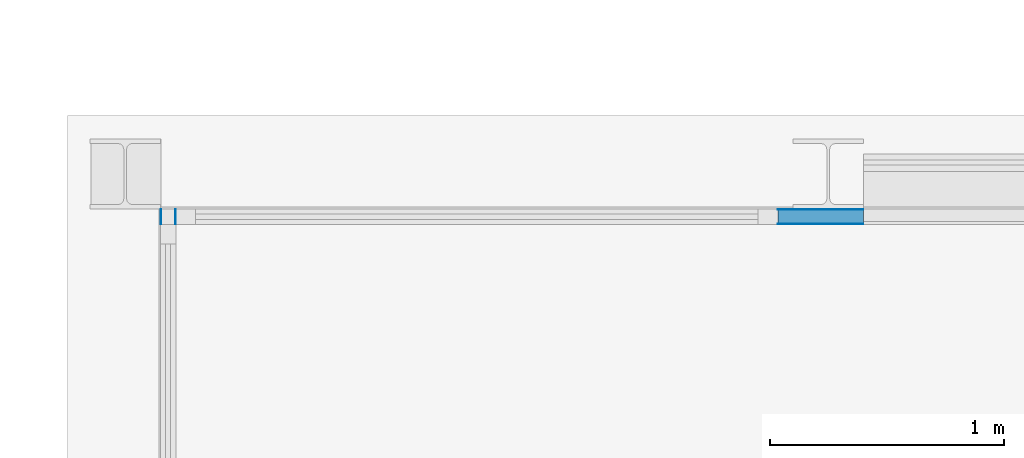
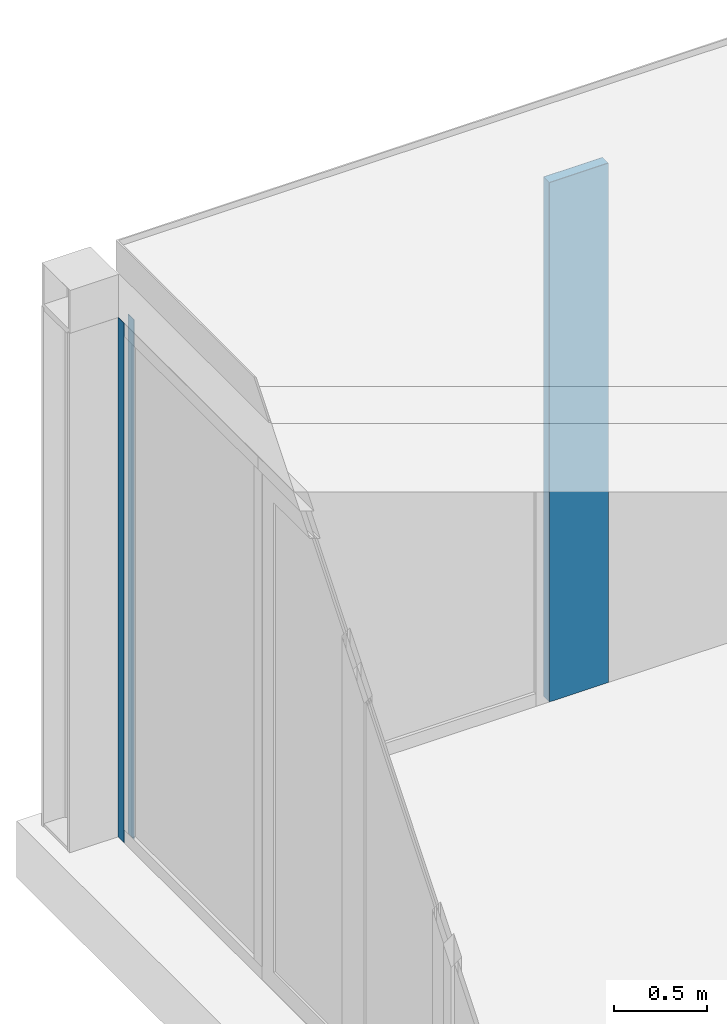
# One storey, part 73 of 99: 5 building element parts, 2 elements without a shape of their own.
"""IFC2X3 building model written with IfcOpenShell, lengths in millimetres."""

import ifcopenshell
import ifcopenshell.guid

model = None  # the IFC model being written
_history = None  # IfcOwnerHistory: only IFC2X3 demands one
_inside = {}  # id of a spatial element -> (the spatial element, [elements in it])
_under = {}  # id of a project, library or spatial element -> (it, [spatial elements below it])
_declared = {}  # id of a project -> (the project, [libraries it declares])
_typed = {}  # id of a type object -> (the type object, [elements of that type])
_made_of = {}  # id of a material, layer set ... -> (it, [elements and type objects made of it])


def new_model(schema):
    """Start an empty IFC model of exactly this schema.

    Asked for "IFC4X3", IfcOpenShell would pick the latest addendum, in which some entities
    have other attributes; the version numbers below select the first issue.
    IFC2X3 requires an IfcOwnerHistory on every rooted entity: one is made here for all.
    """
    global model, _history
    if schema == "IFC4X3":
        model = ifcopenshell.file(schema_version=(4, 3, 0, 0))
    else:
        model = ifcopenshell.file(schema=schema)
    _inside.clear()
    _under.clear()
    _declared.clear()
    _typed.clear()
    _made_of.clear()
    _history = None
    if model.schema == "IFC2X3":
        org = make("IfcOrganization", Name="unknown")
        user = make(
            "IfcPersonAndOrganization",
            ThePerson=make("IfcPerson", FamilyName="unknown"),
            TheOrganization=org,
        )
        app = make(
            "IfcApplication",
            ApplicationDeveloper=org,
            Version="unknown",
            ApplicationFullName="unknown",
            ApplicationIdentifier="unknown",
        )
        _history = make(
            "IfcOwnerHistory",
            OwningUser=user,
            OwningApplication=app,
            ChangeAction="ADDED",
            CreationDate=0,
        )
    return model


def make(cls, **values):
    """One entity of the class cls with the attributes given. An attribute that is None is left unset."""
    return model.create_entity(
        cls, **{name: value for name, value in values.items() if value is not None}
    )


def entity(cls, *values):
    """Any entity or typed value of the class cls, its attributes in the order of the schema. None: left unset."""
    e = model.create_entity(cls)
    for i, value in enumerate(values):
        if value is not None:
            e[i] = value
    return e


def rooted(cls, **values):
    """An entity with a GlobalId (a new one), such as an element, a storey or a relation."""
    return make(cls, GlobalId=ifcopenshell.guid.new(), OwnerHistory=_history, **values)


def si_unit(unit_type, name, prefix=None):
    """IfcSIUnit, for example si_unit("LENGTHUNIT", "METRE", prefix="MILLI")."""
    return make("IfcSIUnit", UnitType=unit_type, Prefix=prefix, Name=name)


def converted_unit(unit_type, name, factor, base, dimensions=None, offset=None):
    """IfcConversionBasedUnit, such as the inch: factor (a typed value) times the base unit."""
    return make(
        "IfcConversionBasedUnit"
        if offset is None
        else "IfcConversionBasedUnitWithOffset",
        ConversionOffset=offset,
        Dimensions=None
        if dimensions is None
        else entity("IfcDimensionalExponents", *dimensions),
        UnitType=unit_type,
        Name=name,
        ConversionFactor=make(
            "IfcMeasureWithUnit", ValueComponent=factor, UnitComponent=base
        ),
    )


def derived_unit(unit_type, elements):
    """IfcDerivedUnit: a product of units, each with its exponent."""
    return make(
        "IfcDerivedUnit",
        Elements=[
            make("IfcDerivedUnitElement", Unit=unit, Exponent=power)
            for unit, power in elements
        ],
        UnitType=unit_type,
    )


def money_unit(currency):
    """IfcMonetaryUnit."""
    return make("IfcMonetaryUnit", Currency=currency)


def assignment(units):
    """IfcUnitAssignment: the units of a project."""
    return None if units is None else make("IfcUnitAssignment", Units=units)


def point(xyz):
    """IfcCartesianPoint."""
    return None if xyz is None else make("IfcCartesianPoint", Coordinates=xyz)


def direction(xyz):
    """IfcDirection."""
    return None if xyz is None else make("IfcDirection", DirectionRatios=xyz)


def frame(location, z_axis=None, x_axis=None):
    """IfcAxis2Placement3D, a coordinate frame: its origin and axes. An axis left out is left unset."""
    return make(
        "IfcAxis2Placement3D",
        Location=point(location),
        Axis=direction(z_axis),
        RefDirection=direction(x_axis),
    )


def origin_with_axes():
    """The frame at (0, 0, 0) with the z axis (0, 0, 1) and the x axis (1, 0, 0) written out."""
    return frame((0.0, 0.0, 0.0), z_axis=(0.0, 0.0, 1.0), x_axis=(1.0, 0.0, 0.0))


def place(relative_to, where):
    """IfcLocalPlacement: puts the frame where relative to a parent placement (None: the world)."""
    return make(
        "IfcLocalPlacement", PlacementRelTo=relative_to, RelativePlacement=where
    )


def context(
    kind, dimensions, precision=None, world=None, true_north=None, identifier=None
):
    """IfcGeometricRepresentationContext, for example the 3D "Model" context."""
    return make(
        "IfcGeometricRepresentationContext",
        ContextIdentifier=identifier,
        ContextType=kind,
        CoordinateSpaceDimension=dimensions,
        Precision=precision,
        WorldCoordinateSystem=world,
        TrueNorth=true_north,
    )


def subcontext(parent, identifier, kind, view, scale=None):
    """IfcGeometricRepresentationSubContext, for example "Body" below "Model"."""
    return make(
        "IfcGeometricRepresentationSubContext",
        ContextIdentifier=identifier,
        ContextType=kind,
        ParentContext=parent,
        TargetScale=scale,
        TargetView=view,
    )


def project(units=None, contexts=None):
    """IfcProject with its units and contexts."""
    return rooted(
        "IfcProject",
        Name="project",
        RepresentationContexts=contexts,
        UnitsInContext=assignment(units),
    )


def spatial(cls, under=None, at=None, **own):
    """A site, building, storey or space (cls), placed at a placement, below another one or the project."""
    s = rooted(cls, ObjectPlacement=at, **own)
    if under is not None:
        _under.setdefault(under.id(), (under, []))[1].append(s)
    return s


def faces_of(points, faces, orient=None, outer=None):
    """IfcFace entities. A face is a list of loops; a loop is a list of indices into points, from 0.

    orient and outer hold one flag for each loop. By default every Orientation is true, the
    first loop of a face is its IfcFaceOuterBound and the others are IfcFaceBound.
    """
    made = []
    for i, loops in enumerate(faces):
        bounds = []
        for j, loop in enumerate(loops):
            is_outer = j == 0 if outer is None else outer[i][j]
            bounds.append(
                make(
                    "IfcFaceOuterBound" if is_outer else "IfcFaceBound",
                    Bound=make("IfcPolyLoop", Polygon=[points[k] for k in loop]),
                    Orientation=True if orient is None else orient[i][j],
                )
            )
        made.append(make("IfcFace", Bounds=bounds))
    return made


def faceted_brep(points, faces, orient=None, outer=None, voids=None):
    """IfcFacetedBrep: a solid bounded by flat faces; with voids (closed shells), ...WithVoids."""
    shared = [point(p) for p in points]
    hull = make("IfcClosedShell", CfsFaces=faces_of(shared, faces, orient, outer))
    if voids is None:
        return make("IfcFacetedBrep", Outer=hull)
    return make(
        "IfcFacetedBrepWithVoids",
        Outer=hull,
        Voids=[
            make(cls, CfsFaces=faces_of(shared, fs, o, b)) for cls, fs, o, b in voids
        ],
    )


def shape(context_of_items, identifier, shape_type, items):
    """IfcShapeRepresentation: the items that make up one representation, for example the "Body"."""
    return make(
        "IfcShapeRepresentation",
        ContextOfItems=context_of_items,
        RepresentationIdentifier=identifier,
        RepresentationType=shape_type,
        Items=items,
    )


def material(Name=None, Category=None):
    """IfcMaterial."""
    return make("IfcMaterial", Name=Name, Category=Category)


def made_of(thing, what):
    """Note that an element or type object is made of a material, layer set ...; save() writes the relation."""
    if what is not None:
        _made_of.setdefault(what.id(), (what, []))[1].append(thing)
    return thing


def type_object(cls, material=None, **own):
    """A type object (cls), such as IfcWallType, which elements share."""
    return made_of(rooted(cls, **own), material)


def element(
    cls,
    number,
    at=None,
    inside=None,
    cuts=None,
    type_object=None,
    material=None,
    context=None,
    identifier="Body",
    shape_type=None,
    held_by="IfcProductDefinitionShape",
    body=None,
    shapes=None,
    **own,
):
    """One element of the class cls, such as IfcWall. Its Tag is "e" and its number.

    at: its placement. inside: the storey or other place that contains it. cuts: it is an
    opening in that element (IfcRelVoidsElement). A single representation is given by context,
    identifier, shape_type and body (its items); several are given by shapes. held_by: the class
    of the entity that holds the representations. save() writes the other relations.
    """
    e = rooted(cls, Tag="e%d" % number, ObjectPlacement=at, **own)
    if body is not None:
        shapes = [shape(context, identifier, shape_type, body)]
    if shapes is not None:
        e.Representation = make(held_by, Representations=shapes)
    if inside is not None:
        _inside.setdefault(inside.id(), (inside, []))[1].append(e)
    if cuts is not None:
        rooted(
            "IfcRelVoidsElement", RelatingBuildingElement=cuts, RelatedOpeningElement=e
        )
    if type_object is not None:
        _typed.setdefault(type_object.id(), (type_object, []))[1].append(e)
    return made_of(e, material)


def aggregate(whole, parts):
    """IfcRelAggregates: a whole, such as a stair, and the parts it consists of."""
    return rooted("IfcRelAggregates", RelatingObject=whole, RelatedObjects=parts)


def save(model, path):
    """Write the relations noted so far, then the file.

    IfcRelAggregates (storeys below a building ...), IfcRelContainedInSpatialStructure (elements
    in a storey), IfcRelDefinesByType, IfcRelAssociatesMaterial and IfcRelDeclares: one each for
    every whole, place, type object, material and project.
    """
    for whole, parts in _under.values():
        aggregate(whole, parts)
    for where, things in _inside.values():
        rooted(
            "IfcRelContainedInSpatialStructure",
            RelatedElements=things,
            RelatingStructure=where,
        )
    for kind, things in _typed.values():
        rooted("IfcRelDefinesByType", RelatedObjects=things, RelatingType=kind)
    for what, things in _made_of.values():
        rooted("IfcRelAssociatesMaterial", RelatedObjects=things, RelatingMaterial=what)
    for by, libraries in _declared.values():
        rooted("IfcRelDeclares", RelatingContext=by, RelatedDefinitions=libraries)
    model.write(path)


model = new_model("IFC2X3")

# Units and contexts
model_context = context("Model", 3, precision=0.01, world=origin_with_axes(), true_north=direction((0.0, 1.0)))
body_context = subcontext(model_context, "Body", "Model", "MODEL_VIEW")
ifc_project = project(units=[si_unit("LENGTHUNIT", "METRE", prefix="MILLI"), si_unit("AREAUNIT", "SQUARE_METRE"), si_unit("VOLUMEUNIT", "CUBIC_METRE"), converted_unit("PLANEANGLEUNIT", "DEGREE", entity("IfcPlaneAngleMeasure", 0.0174532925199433), si_unit("PLANEANGLEUNIT", "RADIAN"), dimensions=[0, 0, 0, 0, 0, 0, 0]), money_unit("EUR"), converted_unit("TIMEUNIT", "Year", entity("IfcTimeMeasure", 31557600.0), si_unit("TIMEUNIT", "SECOND"), dimensions=[0, 0, 1, 0, 0, 0, 0]), si_unit("MASSUNIT", "GRAM", prefix="KILO"), si_unit("THERMODYNAMICTEMPERATUREUNIT", "DEGREE_CELSIUS"), si_unit("LUMINOUSINTENSITYUNIT", "LUMEN"), si_unit("ENERGYUNIT", "JOULE", prefix="MEGA"), derived_unit("THERMALCONDUCTANCEUNIT", [(si_unit("POWERUNIT", "WATT"), 1), (si_unit("LENGTHUNIT", "METRE"), -1), (si_unit("THERMODYNAMICTEMPERATUREUNIT", "KELVIN"), -1)]), derived_unit("SPECIFICHEATCAPACITYUNIT", [(si_unit("ENERGYUNIT", "JOULE"), 1), (si_unit("MASSUNIT", "GRAM", prefix="KILO"), -1), (si_unit("THERMODYNAMICTEMPERATUREUNIT", "KELVIN"), -1)]), derived_unit("MASSDENSITYUNIT", [(si_unit("MASSUNIT", "GRAM", prefix="KILO"), 1), (si_unit("VOLUMEUNIT", "CUBIC_METRE"), -1)])], contexts=[model_context])

# Site, building, storey
site_placement = place(None, origin_with_axes())
site = spatial("IfcSite", under=ifc_project, at=site_placement, Name="Site", CompositionType="ELEMENT")
building_placement = place(site_placement, origin_with_axes())
building = spatial("IfcBuilding", under=site, at=building_placement, Name="Naam gebouw", CompositionType="ELEMENT")
storey_placement = place(building_placement, frame((0.0, 0.0, 7650.0), z_axis=(0.0, 0.0, 1.0), x_axis=(1.0, 0.0, 0.0)))
storey = spatial("IfcBuildingStorey", under=building, at=storey_placement, Name="2e verdieping N", CompositionType="ELEMENT", Elevation=7650.0)

# Wall, building element parts
wall_type = type_object("IfcWallType", Name="Basic Wall:31_WA_ALU_PANEEL", PredefinedType="STANDARD")
wall_1_placement = place(storey_placement, frame((14474.50000003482, 49060.91242632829, -3500.0), z_axis=(0.0, 0.0, 1.0), x_axis=(0.0, 1.0, 0.0)))
wall_1 = element("IfcWall", 1, at=wall_1_placement, inside=storey, type_object=wall_type, Name="Basic Wall:31_WA_ALU_PANEEL")
ifc_material_1 = material(Name="Aluminum geanodiseerd RAL 7024")
building_element_part_1_placement = place(wall_1_placement, origin_with_axes())
building_element_part_1 = element("IfcBuildingElementPart", 2, at=building_element_part_1_placement, material=ifc_material_1, Name="Aluminum geanodiseerd RAL 7024", context=body_context, shape_type="Brep", body=[
    faceted_brep([(65.0000000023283, 32.49999996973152, 0.0), (65.0000000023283, 29.99999996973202, 0.0), (0.0, 29.99999996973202, 0.0), (0.0, 32.49999996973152, 0.0), (65.0000000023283, 32.49999996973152, 3399.999999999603), (65.0000000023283, 29.99999996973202, 3399.999999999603), (0.0, 29.99999996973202, 3399.999999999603), (0.0, 32.49999996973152, 3399.999999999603)], [[[0, 1, 2, 3]], [[0, 4, 5, 1]], [[1, 5, 6, 2]], [[3, 2, 6, 7]], [[4, 0, 3, 7]], [[5, 4, 7, 6]]]),
])
building_element_part_2_placement = place(wall_1_placement, origin_with_axes())
building_element_part_2 = element("IfcBuildingElementPart", 3, at=building_element_part_2_placement, material=ifc_material_1, Name="Aluminum geanodiseerd RAL 7024", context=body_context, shape_type="Brep", body=[
    faceted_brep([(65.0000000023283, -30.00000003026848, 0.0), (65.0000000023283, -32.50000003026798, 0.0), (0.0, -32.50000003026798, 0.0), (0.0, -30.00000003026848, 0.0), (65.0000000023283, -30.00000003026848, 3399.999999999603), (65.0000000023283, -32.50000003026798, 3399.999999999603), (0.0, -32.50000003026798, 3399.999999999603), (0.0, -30.00000003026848, 3399.999999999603)], [[[0, 1, 2, 3]], [[0, 4, 5, 1]], [[1, 5, 6, 2]], [[3, 2, 6, 7]], [[4, 0, 3, 7]], [[5, 4, 7, 6]]]),
])
aggregate(wall_1, [building_element_part_1, building_element_part_2])

wall_2_placement = place(storey_placement, frame((17076.00000002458, 49093.41242635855, -3500.0), z_axis=(0.0, 0.0, 1.0), x_axis=(1.0, -1.594730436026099e-10, 0.0)))
wall_2 = element("IfcWall", 4, at=wall_2_placement, inside=storey, type_object=wall_type, Name="Basic Wall:31_WA_ALU_PANEEL")
ifc_material_2 = material(Name="isolatie_080_1-100")
building_element_part_3_placement = place(wall_2_placement, origin_with_axes())
building_element_part_3 = element("IfcBuildingElementPart", 5, at=building_element_part_3_placement, material=ifc_material_2, Name="isolatie_080_1-100", context=body_context, shape_type="Brep", body=[
    faceted_brep([(364.9999999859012, 30.00000002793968, 0.0), (364.9999999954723, -29.9999999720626, 0.0), (4.785505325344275e-09, -30.00000003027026, 0.0), (-4.785505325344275e-09, 29.99999996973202, 0.0), (364.9999999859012, 30.00000002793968, 3399.999999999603), (364.9999999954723, -29.9999999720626, 3399.999999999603), (4.785505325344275e-09, -30.00000003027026, 3399.999999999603), (-4.785505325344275e-09, 29.99999996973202, 3399.999999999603)], [[[0, 1, 2, 3]], [[0, 4, 5, 1]], [[1, 5, 6, 2]], [[3, 2, 6, 7]], [[4, 0, 3, 7]], [[5, 4, 7, 6]]]),
])
building_element_part_4_placement = place(wall_2_placement, origin_with_axes())
building_element_part_4 = element("IfcBuildingElementPart", 6, at=building_element_part_4_placement, material=ifc_material_1, Name="Aluminum geanodiseerd RAL 7024", context=body_context, shape_type="Brep", body=[
    faceted_brep([(364.9999999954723, -29.9999999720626, 0.0), (364.9999999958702, -32.49999997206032, 0.0), (5.183409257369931e-09, -32.50000003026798, 0.0), (4.785505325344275e-09, -30.00000003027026, 0.0), (364.9999999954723, -29.9999999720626, 3399.999999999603), (364.9999999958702, -32.49999997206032, 3399.999999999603), (5.183409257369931e-09, -32.50000003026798, 3399.999999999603), (4.785505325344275e-09, -30.00000003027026, 3399.999999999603)], [[[0, 1, 2, 3]], [[0, 4, 5, 1]], [[1, 5, 6, 2]], [[3, 2, 6, 7]], [[4, 0, 3, 7]], [[5, 4, 7, 6]]]),
])
building_element_part_5_placement = place(wall_2_placement, origin_with_axes())
building_element_part_5 = element("IfcBuildingElementPart", 7, at=building_element_part_5_placement, material=ifc_material_1, Name="Aluminum geanodiseerd RAL 7024", context=body_context, shape_type="Brep", body=[
    faceted_brep([(364.9999999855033, 32.5000000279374, 0.0), (364.9999999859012, 30.00000002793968, 0.0), (-4.785505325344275e-09, 29.99999996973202, 0.0), (-5.183409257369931e-09, 32.49999996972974, 0.0), (364.9999999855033, 32.5000000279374, 3399.999999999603), (364.9999999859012, 30.00000002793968, 3399.999999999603), (-4.785505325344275e-09, 29.99999996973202, 3399.999999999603), (-5.183409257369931e-09, 32.49999996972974, 3399.999999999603)], [[[0, 1, 2, 3]], [[0, 4, 5, 1]], [[1, 5, 6, 2]], [[3, 2, 6, 7]], [[4, 0, 3, 7]], [[5, 4, 7, 6]]]),
])
aggregate(wall_2, [building_element_part_3, building_element_part_4, building_element_part_5])

save(model, "model.ifc")
